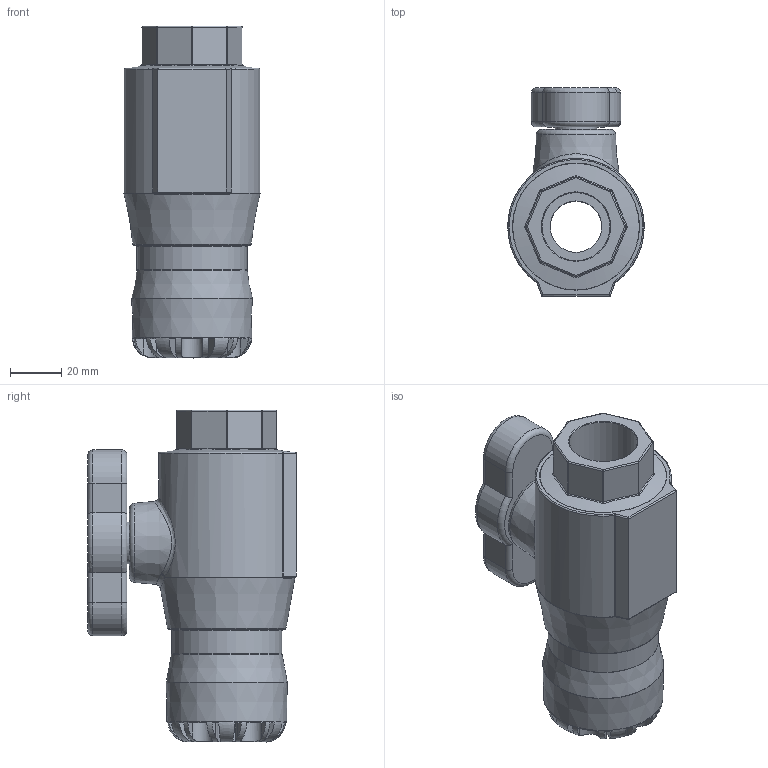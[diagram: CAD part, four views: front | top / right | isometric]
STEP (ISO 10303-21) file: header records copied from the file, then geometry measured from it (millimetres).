
FILE_DESCRIPTION(/* description */ ('PA Ball Valve Series 1 25mm x Female 3/4'''''),/* implementation_level */ '2;1');
FILE_NAME(/* name */ 'C:\Dropbox\99-16-3568-Processing\S1\0371003\03710030S00025007_03710030SF0025007.stp',/* time_stamp */ '2022-04-18T17:38:18+03:00',/* author */ ('Lenora'),/* organization */ (''),/* preprocessor_version */ 'ST-DEVELOPER v17.2',/* originating_system */ 'Autodesk Inventor 2019',/* authorisation */ '');
FILE_SCHEMA (('AUTOMOTIVE_DESIGN { 1 0 10303 214 3 1 1 }'));
Length unit declared in the file: millimetre
Products named in the file (1): 03710030S00025007_03710030SF0025007
Bounding box: 52.98 x 81 x 129 mm (x, y, z)
Volume: 222598 mm3; surface area: 40129.5 mm2
Topology: 1 solids, 1 shells, 217 faces, 553 edges, 341 vertices
Faces by surface type: plane 81, cylinder 73, bspline 27, torus 22, sphere 8, cone 6
Full cylindrical faces by diameter (mm): 16.125 x1, 20 x1, 25 x1, 26.441 x1, 27 x1, 42.93 x1
Entity records: 7706 total; most frequent: CARTESIAN_POINT 2624, ORIENTED_EDGE 1074, DIRECTION 1059, EDGE_CURVE 537, AXIS2_PLACEMENT_3D 444, VERTEX_POINT 329, CIRCLE 249, EDGE_LOOP 226
